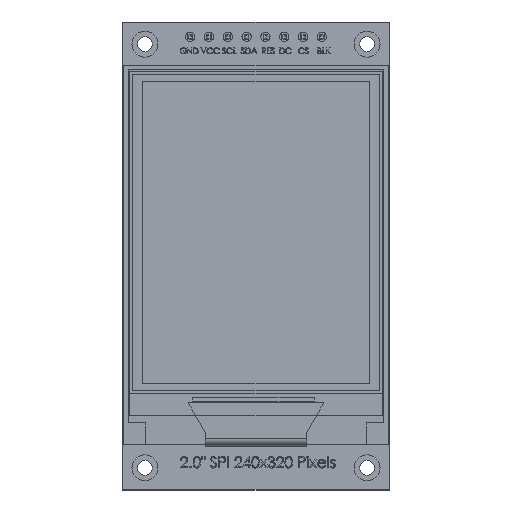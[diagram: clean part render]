
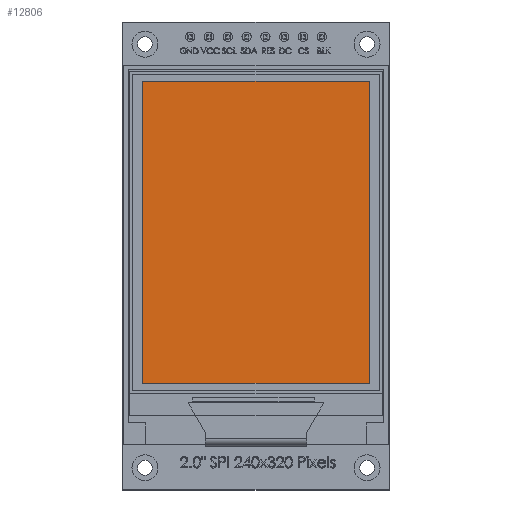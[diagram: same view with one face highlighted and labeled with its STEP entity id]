
A CAD part, top view. The second image highlights one B-rep face of the part: STEP entity #12806.
In plain terms, the highlighted planar face has unit normal (0, 0, 1).
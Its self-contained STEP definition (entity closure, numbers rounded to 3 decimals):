
#3948 = VECTOR ( 'NONE', #63110, 1000. ) ;
#7799 = VECTOR ( 'NONE', #50777, 1000. ) ;
#9698 = CARTESIAN_POINT ( 'NONE',  ( 0., 23.45, 2.2 ) ) ;
#9839 = ORIENTED_EDGE ( 'NONE', *, *, #68353, .F. ) ;
#11595 = EDGE_LOOP ( 'NONE', ( #34933, #46947, #9839, #29078 ) ) ;
#12806 = ADVANCED_FACE ( 'NONE', ( #54764 ), #44651, .T. ) ;
#13728 = EDGE_CURVE ( 'NONE', #25680, #22917, #66320, .T. ) ;
#15039 = VECTOR ( 'NONE', #42866, 1000. ) ;
#16066 = CARTESIAN_POINT ( 'NONE',  ( 15.3, -17.35, 2.2 ) ) ;
#16112 = LINE ( 'NONE', #39185, #7799 ) ;
#17666 = LINE ( 'NONE', #40373, #3948 ) ;
#17981 = VERTEX_POINT ( 'NONE', #16066 ) ;
#22917 = VERTEX_POINT ( 'NONE', #40811 ) ;
#25680 = VERTEX_POINT ( 'NONE', #59434 ) ;
#29078 = ORIENTED_EDGE ( 'NONE', *, *, #62128, .F. ) ;
#31270 = DIRECTION ( 'NONE',  ( 0., 1., 0. ) ) ;
#34933 = ORIENTED_EDGE ( 'NONE', *, *, #13728, .F. ) ;
#38726 = LINE ( 'NONE', #9698, #15039 ) ;
#39185 = CARTESIAN_POINT ( 'NONE',  ( 0., -17.35, 2.2 ) ) ;
#40373 = CARTESIAN_POINT ( 'NONE',  ( 15.3, 0., 2.2 ) ) ;
#40811 = CARTESIAN_POINT ( 'NONE',  ( -15.3, 23.45, 2.2 ) ) ;
#41446 = VECTOR ( 'NONE', #31270, 1000. ) ;
#42866 = DIRECTION ( 'NONE',  ( 1., 0., 0. ) ) ;
#43987 = CARTESIAN_POINT ( 'NONE',  ( 15.3, 23.45, 2.2 ) ) ;
#44651 = PLANE ( 'NONE',  #71319 ) ;
#46947 = ORIENTED_EDGE ( 'NONE', *, *, #70803, .F. ) ;
#48064 = CARTESIAN_POINT ( 'NONE',  ( -15.3, 0., 2.2 ) ) ;
#49527 = CARTESIAN_POINT ( 'NONE',  ( 0., 0., 2.2 ) ) ;
#50777 = DIRECTION ( 'NONE',  ( -1., 0., 0. ) ) ;
#54764 = FACE_OUTER_BOUND ( 'NONE', #11595, .T. ) ;
#59434 = CARTESIAN_POINT ( 'NONE',  ( -15.3, -17.35, 2.2 ) ) ;
#61069 = DIRECTION ( 'NONE',  ( 0., 0., 1. ) ) ;
#62128 = EDGE_CURVE ( 'NONE', #22917, #69482, #38726, .T. ) ;
#63110 = DIRECTION ( 'NONE',  ( 0., -1., 0. ) ) ;
#66320 = LINE ( 'NONE', #48064, #41446 ) ;
#68353 = EDGE_CURVE ( 'NONE', #69482, #17981, #17666, .T. ) ;
#69482 = VERTEX_POINT ( 'NONE', #43987 ) ;
#70803 = EDGE_CURVE ( 'NONE', #17981, #25680, #16112, .T. ) ;
#71319 = AXIS2_PLACEMENT_3D ( 'NONE', #49527, #61069, #72263 ) ;
#72263 = DIRECTION ( 'NONE',  ( 1., 0., 0. ) ) ;
